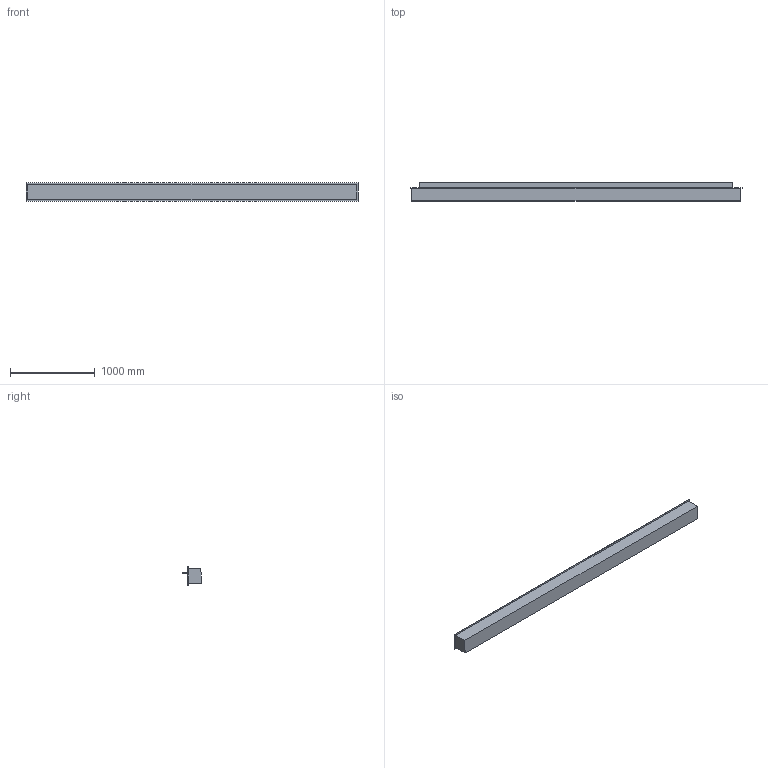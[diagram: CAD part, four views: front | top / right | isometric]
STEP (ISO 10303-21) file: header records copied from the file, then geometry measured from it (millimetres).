
FILE_DESCRIPTION (( 'STEP AP203' ), '1' );
FILE_NAME ('Denver F6 3920.STEP', '2024-03-13T09:32:45', ( '' ), ( '' ), 'SwSTEP 2.0', 'SolidWorks 2023', '' );
FILE_SCHEMA (( 'CONFIG_CONTROL_DESIGN' ));
Length unit declared in the file: millimetre
Products named in the file (1): Denver F6 3920
Bounding box: 3920 x 220 x 215 mm (x, y, z)
Volume: 110722319 mm3; surface area: 4944027.1 mm2
Topology: 8 solids, 8 shells, 68 faces, 156 edges, 104 vertices
Faces by surface type: plane 68
Entity records: 1955 total; most frequent: CARTESIAN_POINT 329, ORIENTED_EDGE 312, DIRECTION 294, EDGE_CURVE 156, LINE 156, VECTOR 156, VERTEX_POINT 104, EDGE_LOOP 74
